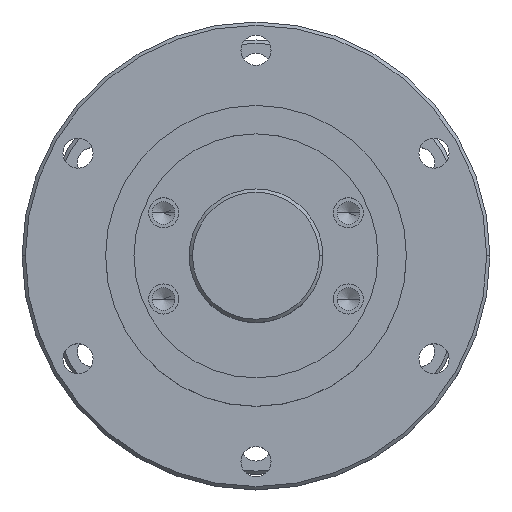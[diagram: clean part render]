
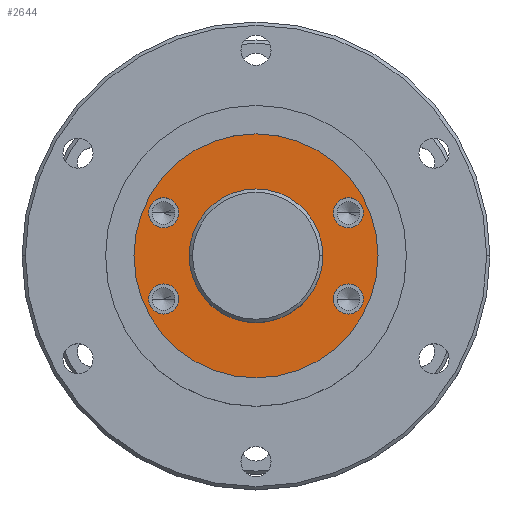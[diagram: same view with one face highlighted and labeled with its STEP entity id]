
A CAD part, top view. The second image highlights one B-rep face of the part: STEP entity #2644.
In plain terms, the highlighted planar face has unit normal (0, 0, 1).
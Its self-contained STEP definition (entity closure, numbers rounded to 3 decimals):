
#47 = VERTEX_POINT ( 'NONE', #3695 ) ;
#58 = EDGE_LOOP ( 'NONE', ( #2587, #2540 ) ) ;
#104 = DIRECTION ( 'NONE',  ( 0., 0., 1. ) ) ;
#137 = CARTESIAN_POINT ( 'NONE',  ( 23.142, -12.89, 0. ) ) ;
#163 = CARTESIAN_POINT ( 'NONE',  ( -23.142, 12.89, 0. ) ) ;
#186 = CIRCLE ( 'NONE', #1574, 4.5 ) ;
#320 = CARTESIAN_POINT ( 'NONE',  ( 0., 0., 0. ) ) ;
#368 = CARTESIAN_POINT ( 'NONE',  ( 0., 0., 0. ) ) ;
#419 = EDGE_CURVE ( 'NONE', #47, #4615, #835, .T. ) ;
#479 = AXIS2_PLACEMENT_3D ( 'NONE', #4213, #1616, #4679 ) ;
#513 = FACE_BOUND ( 'NONE', #3714, .T. ) ;
#581 = DIRECTION ( 'NONE',  ( 0., 0., 1. ) ) ;
#617 = DIRECTION ( 'NONE',  ( 0., 0., -1. ) ) ;
#654 = FACE_BOUND ( 'NONE', #58, .T. ) ;
#694 = CARTESIAN_POINT ( 'NONE',  ( 27.642, 12.89, 0. ) ) ;
#762 = DIRECTION ( 'NONE',  ( 1., 0., 0. ) ) ;
#792 = VERTEX_POINT ( 'NONE', #163 ) ;
#801 = ORIENTED_EDGE ( 'NONE', *, *, #3474, .F. ) ;
#806 = DIRECTION ( 'NONE',  ( 1., 0., 0. ) ) ;
#835 = CIRCLE ( 'NONE', #479, 4.5 ) ;
#879 = CARTESIAN_POINT ( 'NONE',  ( 20., 0., 0. ) ) ;
#1035 = CIRCLE ( 'NONE', #1096, 4.5 ) ;
#1069 = VERTEX_POINT ( 'NONE', #4208 ) ;
#1095 = CARTESIAN_POINT ( 'NONE',  ( 27.642, 12.89, 0. ) ) ;
#1096 = AXIS2_PLACEMENT_3D ( 'NONE', #694, #3718, #1124 ) ;
#1098 = DIRECTION ( 'NONE',  ( 0., 0., 1. ) ) ;
#1110 = ORIENTED_EDGE ( 'NONE', *, *, #5473, .T. ) ;
#1124 = DIRECTION ( 'NONE',  ( 1., 0., 0. ) ) ;
#1358 = CARTESIAN_POINT ( 'NONE',  ( -32.142, 12.89, 0. ) ) ;
#1375 = EDGE_CURVE ( 'NONE', #1069, #1437, #2006, .T. ) ;
#1376 = CIRCLE ( 'NONE', #4769, 4.5 ) ;
#1437 = VERTEX_POINT ( 'NONE', #879 ) ;
#1503 = CARTESIAN_POINT ( 'NONE',  ( -36.5, 0., 0. ) ) ;
#1512 = VERTEX_POINT ( 'NONE', #1358 ) ;
#1528 = DIRECTION ( 'NONE',  ( 1., 0., 0. ) ) ;
#1574 = AXIS2_PLACEMENT_3D ( 'NONE', #3150, #581, #3590 ) ;
#1616 = DIRECTION ( 'NONE',  ( 0., 0., 1. ) ) ;
#1654 = FACE_BOUND ( 'NONE', #4966, .T. ) ;
#1661 = CARTESIAN_POINT ( 'NONE',  ( -32.142, -12.89, 0. ) ) ;
#1740 = EDGE_CURVE ( 'NONE', #4381, #4282, #2384, .T. ) ;
#1791 = CARTESIAN_POINT ( 'NONE',  ( 23.142, 12.89, 0. ) ) ;
#1882 = DIRECTION ( 'NONE',  ( 0., 0., 1. ) ) ;
#1910 = ORIENTED_EDGE ( 'NONE', *, *, #3167, .F. ) ;
#1912 = CARTESIAN_POINT ( 'NONE',  ( 0., 0., 0. ) ) ;
#2006 = CIRCLE ( 'NONE', #4830, 20. ) ;
#2107 = DIRECTION ( 'NONE',  ( -1., 0., 0. ) ) ;
#2225 = CARTESIAN_POINT ( 'NONE',  ( -27.642, -12.89, 0. ) ) ;
#2228 = CIRCLE ( 'NONE', #4225, 4.5 ) ;
#2274 = CARTESIAN_POINT ( 'NONE',  ( -27.642, 12.89, 0. ) ) ;
#2298 = CARTESIAN_POINT ( 'NONE',  ( 36.5, 0., 0. ) ) ;
#2331 = DIRECTION ( 'NONE',  ( 1., 0., 0. ) ) ;
#2384 = CIRCLE ( 'NONE', #3094, 4.5 ) ;
#2429 = AXIS2_PLACEMENT_3D ( 'NONE', #4510, #1882, #4982 ) ;
#2466 = CARTESIAN_POINT ( 'NONE',  ( -23.142, -12.89, 0. ) ) ;
#2540 = ORIENTED_EDGE ( 'NONE', *, *, #2714, .F. ) ;
#2587 = ORIENTED_EDGE ( 'NONE', *, *, #3803, .F. ) ;
#2644 = ADVANCED_FACE ( 'NONE', ( #5190, #654, #4244, #1654, #513, #5031 ), #4503, .F. ) ;
#2666 = CARTESIAN_POINT ( 'NONE',  ( 0., 0., 0. ) ) ;
#2689 = CIRCLE ( 'NONE', #4798, 4.5 ) ;
#2713 = DIRECTION ( 'NONE',  ( -1., 0., 0. ) ) ;
#2714 = EDGE_CURVE ( 'NONE', #1512, #792, #1376, .T. ) ;
#2732 = EDGE_LOOP ( 'NONE', ( #4777, #3004 ) ) ;
#2854 = AXIS2_PLACEMENT_3D ( 'NONE', #1912, #5005, #2331 ) ;
#2971 = AXIS2_PLACEMENT_3D ( 'NONE', #320, #3329, #762 ) ;
#3004 = ORIENTED_EDGE ( 'NONE', *, *, #1740, .F. ) ;
#3094 = AXIS2_PLACEMENT_3D ( 'NONE', #2225, #4775, #2107 ) ;
#3104 = DIRECTION ( 'NONE',  ( 1., 0., 0. ) ) ;
#3148 = VERTEX_POINT ( 'NONE', #1503 ) ;
#3150 = CARTESIAN_POINT ( 'NONE',  ( -27.642, -12.89, 0. ) ) ;
#3167 = EDGE_CURVE ( 'NONE', #5118, #4458, #2228, .T. ) ;
#3246 = AXIS2_PLACEMENT_3D ( 'NONE', #4969, #617, #3629 ) ;
#3318 = EDGE_CURVE ( 'NONE', #1437, #1069, #4804, .T. ) ;
#3329 = DIRECTION ( 'NONE',  ( 0., 0., 1. ) ) ;
#3356 = CIRCLE ( 'NONE', #2429, 4.5 ) ;
#3384 = DIRECTION ( 'NONE',  ( 0., 0., 1. ) ) ;
#3474 = EDGE_CURVE ( 'NONE', #4458, #5118, #1035, .T. ) ;
#3590 = DIRECTION ( 'NONE',  ( -1., 0., 0. ) ) ;
#3629 = DIRECTION ( 'NONE',  ( -1., 0., 0. ) ) ;
#3684 = CARTESIAN_POINT ( 'NONE',  ( -27.642, 12.89, 0. ) ) ;
#3695 = CARTESIAN_POINT ( 'NONE',  ( 32.142, -12.89, 0. ) ) ;
#3714 = EDGE_LOOP ( 'NONE', ( #801, #1910 ) ) ;
#3718 = DIRECTION ( 'NONE',  ( 0., 0., 1. ) ) ;
#3803 = EDGE_CURVE ( 'NONE', #792, #1512, #2689, .T. ) ;
#4132 = DIRECTION ( 'NONE',  ( 0., 0., 1. ) ) ;
#4133 = DIRECTION ( 'NONE',  ( -1., 0., 0. ) ) ;
#4194 = ORIENTED_EDGE ( 'NONE', *, *, #5259, .F. ) ;
#4208 = CARTESIAN_POINT ( 'NONE',  ( -20., 0., 0. ) ) ;
#4213 = CARTESIAN_POINT ( 'NONE',  ( 27.642, -12.89, 0. ) ) ;
#4225 = AXIS2_PLACEMENT_3D ( 'NONE', #1095, #4132, #1528 ) ;
#4244 = FACE_BOUND ( 'NONE', #2732, .T. ) ;
#4255 = EDGE_LOOP ( 'NONE', ( #5364, #5426 ) ) ;
#4282 = VERTEX_POINT ( 'NONE', #2466 ) ;
#4338 = CARTESIAN_POINT ( 'NONE',  ( 32.142, 12.89, 0. ) ) ;
#4381 = VERTEX_POINT ( 'NONE', #1661 ) ;
#4411 = AXIS2_PLACEMENT_3D ( 'NONE', #368, #3384, #806 ) ;
#4458 = VERTEX_POINT ( 'NONE', #4338 ) ;
#4503 = PLANE ( 'NONE',  #3246 ) ;
#4510 = CARTESIAN_POINT ( 'NONE',  ( 27.642, -12.89, 0. ) ) ;
#4604 = CIRCLE ( 'NONE', #2971, 36.5 ) ;
#4615 = VERTEX_POINT ( 'NONE', #137 ) ;
#4679 = DIRECTION ( 'NONE',  ( 1., 0., 0. ) ) ;
#4730 = EDGE_CURVE ( 'NONE', #3148, #5283, #4833, .T. ) ;
#4769 = AXIS2_PLACEMENT_3D ( 'NONE', #3684, #1098, #4133 ) ;
#4775 = DIRECTION ( 'NONE',  ( 0., 0., 1. ) ) ;
#4777 = ORIENTED_EDGE ( 'NONE', *, *, #5225, .F. ) ;
#4798 = AXIS2_PLACEMENT_3D ( 'NONE', #2274, #5437, #2713 ) ;
#4804 = CIRCLE ( 'NONE', #4411, 20. ) ;
#4830 = AXIS2_PLACEMENT_3D ( 'NONE', #2666, #104, #3104 ) ;
#4833 = CIRCLE ( 'NONE', #2854, 36.5 ) ;
#4966 = EDGE_LOOP ( 'NONE', ( #5020, #4194 ) ) ;
#4969 = CARTESIAN_POINT ( 'NONE',  ( 0., 36.5, 0. ) ) ;
#4982 = DIRECTION ( 'NONE',  ( 1., 0., 0. ) ) ;
#5005 = DIRECTION ( 'NONE',  ( 0., 0., 1. ) ) ;
#5020 = ORIENTED_EDGE ( 'NONE', *, *, #419, .F. ) ;
#5031 = FACE_OUTER_BOUND ( 'NONE', #5639, .T. ) ;
#5118 = VERTEX_POINT ( 'NONE', #1791 ) ;
#5190 = FACE_BOUND ( 'NONE', #4255, .T. ) ;
#5225 = EDGE_CURVE ( 'NONE', #4282, #4381, #186, .T. ) ;
#5259 = EDGE_CURVE ( 'NONE', #4615, #47, #3356, .T. ) ;
#5283 = VERTEX_POINT ( 'NONE', #2298 ) ;
#5364 = ORIENTED_EDGE ( 'NONE', *, *, #3318, .F. ) ;
#5426 = ORIENTED_EDGE ( 'NONE', *, *, #1375, .F. ) ;
#5437 = DIRECTION ( 'NONE',  ( 0., 0., 1. ) ) ;
#5473 = EDGE_CURVE ( 'NONE', #5283, #3148, #4604, .T. ) ;
#5502 = ORIENTED_EDGE ( 'NONE', *, *, #4730, .T. ) ;
#5639 = EDGE_LOOP ( 'NONE', ( #1110, #5502 ) ) ;
